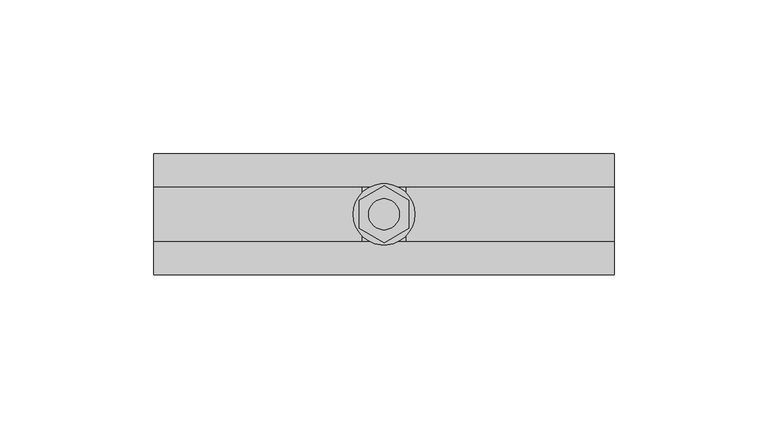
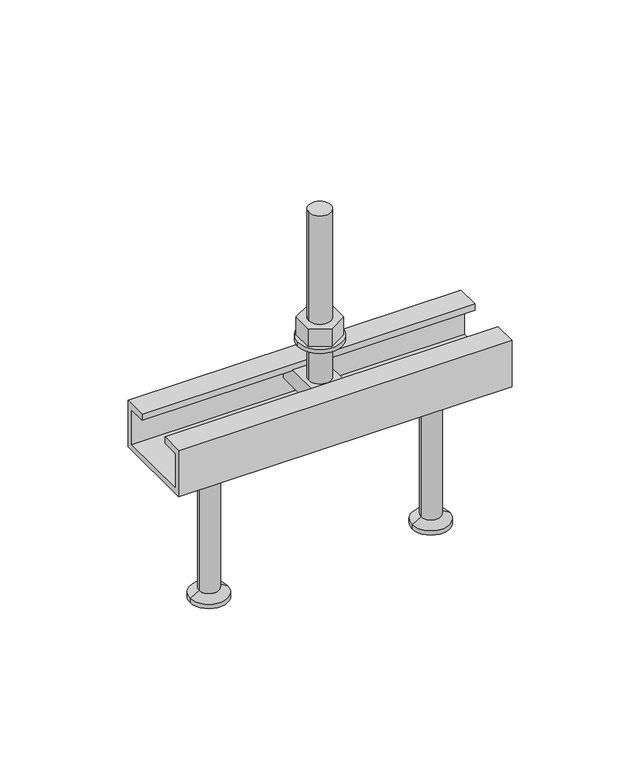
"""IFC4 building model written with IfcOpenShell, lengths in millimetres: fastener geometry, JTA-W JORDAHL® AnchorChannels : JTA-W L=150 mm."""

from ifc_helpers import new_model, si_unit, point, frame, frame_2d, origin, place, context, project, spatial, polyline, circle_curve, trimmed, segment, composite_curve, outline, extrude, source, transform, mapped, element, save
from ifc_brep_helpers import plane_surface, cylinder_surface, revolved_surface, advanced_brep


def fastener_856946d6(model_context):
    return source(origin(), model_context, "Body", "SolidModel", [
        extrude(outline(polyline([(75.0, 9.2376043), (83.0, 4.6188022), (83.0, -4.6188022), (75.0, -9.2376043), (67.0, -4.6188022), (67.0, 4.6188022), (75.0, 9.2376043)]), holes=[composite_curve([segment(trimmed(circle_curve(frame_2d((75.0, 0.0)), 5.0), [point((70.0, 0.0))], [point((80.0, 0.0))], True, "CARTESIAN"), True, "CONTINUOUS"), segment(trimmed(circle_curve(frame_2d((75.0, 0.0)), 5.0), [point((80.0, 0.0))], [point((70.0, 0.0))], True, "CARTESIAN"), True, "CONTINUOUS")], self_intersect=False)]), frame((0.0, 0.0, 17.0), z_axis=(0.0, 0.0, 1.0), x_axis=(1.0, 0.0, 0.0)), (0.0, 0.0, 1.0), 8.4),
        extrude(outline(composite_curve([segment(trimmed(circle_curve(frame_2d((75.0, 0.0)), 10.0), [point((65.0, 0.0))], [point((85.0, 0.0))], False, "CARTESIAN"), True, "CONTINUOUS"), segment(trimmed(circle_curve(frame_2d((75.0, 0.0)), 10.0), [point((85.0, 0.0))], [point((65.0, 0.0))], False, "CARTESIAN"), True, "CONTINUOUS")], self_intersect=False), holes=[composite_curve([segment(trimmed(circle_curve(frame_2d((75.0, 0.0)), 5.25), [point((69.75, 0.0))], [point((80.25, 0.0))], True, "CARTESIAN"), True, "CONTINUOUS"), segment(trimmed(circle_curve(frame_2d((75.0, 0.0)), 5.25), [point((80.25, 0.0))], [point((69.75, 0.0))], True, "CARTESIAN"), True, "CONTINUOUS")], self_intersect=False)]), frame((0.0, 0.0, 15.0), z_axis=(0.0, 0.0, 1.0), x_axis=(1.0, 0.0, 0.0)), (0.0, 0.0, 1.0), 2.0),
        advanced_brep(
        [(82.0, 16.25, -3.0), (82.0, -16.25, -3.0), (82.0, -16.25, -11.0), (82.0, 16.25, -11.0), (68.0, 16.25, -3.0), (68.0, 16.25, -11.0), (68.0, -16.25, -11.0), (68.0, -16.25, -3.0), (80.0, 0.0, -3.0), (70.0, 0.0, -3.0), (70.0, 0.0, 77.0), (80.0, 0.0, 77.0)],
        [
            (0, 1),
            (1, 2),
            (2, 3),
            (3, 0),
            (4, 5),
            (5, 6),
            (6, 7),
            (7, 4),
            (0, 4),
            (7, 1),
            (8, 9, circle_curve(frame((75.0, 0.0, -3.0), z_axis=(0.0, 0.0, -1.0), x_axis=(1.0, 0.0, 0.0)), 5.0)),
            (9, 8, circle_curve(frame((75.0, 0.0, -3.0), z_axis=(0.0, 0.0, -1.0), x_axis=(1.0, 0.0, 0.0)), 5.0)),
            (6, 2),
            (5, 3),
            (10, 11, circle_curve(frame((75.0, 0.0, 77.0), z_axis=(0.0, 0.0, 1.0), x_axis=(1.0, 0.0, 0.0)), 5.0)),
            (11, 10, circle_curve(frame((75.0, 0.0, 77.0), z_axis=(0.0, 0.0, 1.0), x_axis=(1.0, 0.0, 0.0)), 5.0)),
            (10, 9),
            (8, 11),
        ],
        [
            plane_surface(frame((82.0, -16.25, -3.0), z_axis=(1.0, 0.0, 0.0), x_axis=(0.0, -1.0, 0.0))),
            plane_surface(frame((68.0, -16.25, -3.0), z_axis=(-1.0, 0.0, 0.0), x_axis=(0.0, 1.0, 0.0))),
            plane_surface(frame((82.0, 16.25, -3.0), z_axis=(0.0, 0.0, 1.0), x_axis=(-1.0, 0.0, 0.0))),
            plane_surface(frame((82.0, -16.25, -3.0), z_axis=(0.0, -1.0, 0.0), x_axis=(-1.0, 0.0, 0.0))),
            plane_surface(frame((82.0, -16.25, -11.0), z_axis=(0.0, 0.0, -1.0), x_axis=(-1.0, 0.0, 0.0))),
            plane_surface(frame((82.0, 16.25, -11.0), z_axis=(0.0, 1.0, 0.0), x_axis=(-1.0, 0.0, 0.0))),
            plane_surface(frame((80.0, 0.0, 77.0), z_axis=(0.0, 0.0, 1.0), x_axis=(0.0, 1.0, 0.0))),
            cylinder_surface(frame((75.0, 0.0, -3.0), z_axis=(0.0, 0.0, 1.0), x_axis=(1.0, 0.0, 0.0)), 5.0),
        ],
        [
            (0, [[1, 2, 3, 4]]),
            (1, [[5, 6, 7, 8]]),
            (2, [[-1, 9, -8, 10], [11, 12]]),
            (3, [[-2, -10, -7, 13]]),
            (4, [[-3, -13, -6, 14]]),
            (5, [[-4, -14, -5, -9]]),
            (6, [[15, 16]]),
            (7, [[-15, 17, -11, 18]]),
            (7, [[-16, -18, -12, -17]]),
        ],
    ),
        advanced_brep(
        [(125.0, 0.0, -22.0), (138.5, 0.0, -22.0), (111.5, 0.0, -22.0), (116.5, 0.0, -90.0), (133.5, 0.0, -90.0), (125.0, 0.0, -90.0), (116.5, 0.0, -88.0), (133.5, 0.0, -88.0), (120.5, 0.0, -85.6905989), (129.5, 0.0, -85.6905989), (120.5, 0.0, -24.5), (129.5, 0.0, -24.5)],
        [
            (0, 1),
            (1, 2, circle_curve(frame((125.0, 0.0, -22.0), z_axis=(0.0, 0.0, 1.0), x_axis=(1.0, 0.0, 0.0)), 13.5)),
            (2, 0),
            (2, 1, circle_curve(frame((125.0, 0.0, -22.0), z_axis=(0.0, 0.0, 1.0), x_axis=(1.0, 0.0, 0.0)), 13.5)),
            (3, 4, circle_curve(frame((125.0, 0.0, -90.0), z_axis=(0.0, 0.0, -1.0), x_axis=(1.0, 0.0, 0.0)), 8.5)),
            (4, 5),
            (5, 3),
            (4, 3, circle_curve(frame((125.0, 0.0, -90.0), z_axis=(0.0, 0.0, -1.0), x_axis=(1.0, 0.0, 0.0)), 8.5)),
            (6, 7, circle_curve(frame((125.0, 0.0, -88.0), z_axis=(0.0, 0.0, -1.0), x_axis=(1.0, 0.0, 0.0)), 8.5)),
            (7, 4),
            (3, 6),
            (7, 6, circle_curve(frame((125.0, 0.0, -88.0), z_axis=(0.0, 0.0, -1.0), x_axis=(1.0, 0.0, 0.0)), 8.5)),
            (8, 9, circle_curve(frame((125.0, 0.0, -85.6905989), z_axis=(0.0, 0.0, -1.0), x_axis=(1.0, 0.0, 0.0)), 4.5)),
            (9, 7),
            (6, 8),
            (9, 8, circle_curve(frame((125.0, 0.0, -85.6905989), z_axis=(0.0, 0.0, -1.0), x_axis=(1.0, 0.0, 0.0)), 4.5)),
            (10, 11, circle_curve(frame((125.0, 0.0, -24.5), z_axis=(0.0, 0.0, -1.0), x_axis=(1.0, 0.0, 0.0)), 4.5)),
            (11, 9),
            (8, 10),
            (11, 10, circle_curve(frame((125.0, 0.0, -24.5), z_axis=(0.0, 0.0, -1.0), x_axis=(1.0, 0.0, 0.0)), 4.5)),
            (1, 11),
            (10, 2),
        ],
        [
            plane_surface(frame((125.0, 0.0, -22.0), z_axis=(0.0, 0.0, 1.0), x_axis=(1.0, 0.0, 0.0))),
            plane_surface(frame((125.0, 0.0, -90.0), z_axis=(0.0, 0.0, -1.0), x_axis=(1.0, 0.0, 0.0))),
            cylinder_surface(frame((125.0, 0.0, 2282.3150031), z_axis=(0.0, 0.0, 1.0), x_axis=(1.0, 0.0, 0.0)), 8.5),
            revolved_surface(polyline([(133.5, 0.0, -88.0), (129.5, 0.0, -85.6905989)]), (125.0, 0.0, 2282.3150031), (0.0, 0.0, 1.0)),
            cylinder_surface(frame((125.0, 0.0, 2282.3150031), z_axis=(0.0, 0.0, 1.0), x_axis=(1.0, 0.0, 0.0)), 4.5),
            revolved_surface(polyline([(129.5, 0.0, -24.5), (138.5, 0.0, -22.0)]), (125.0, 0.0, 2282.3150031), (0.0, 0.0, 1.0)),
        ],
        [
            (0, [[1, 2, 3]]),
            (0, [[-3, 4, -1]]),
            (1, [[5, 6, 7]]),
            (1, [[8, -7, -6]]),
            (2, [[9, 10, -5, 11]]),
            (2, [[12, -11, -8, -10]]),
            (3, [[13, 14, -9, 15]]),
            (3, [[16, -15, -12, -14]]),
            (4, [[17, 18, -13, 19]]),
            (4, [[20, -19, -16, -18]]),
            (5, [[-2, 21, -17, 22]]),
            (5, [[-4, -22, -20, -21]]),
        ],
    ),
        advanced_brep(
        [(25.0, 0.0, -22.0), (38.5, 0.0, -22.0), (11.5, 0.0, -22.0), (16.5, 0.0, -90.0), (33.5, 0.0, -90.0), (25.0, 0.0, -90.0), (16.5, 0.0, -88.0), (33.5, 0.0, -88.0), (20.5, 0.0, -85.6905989), (29.5, 0.0, -85.6905989), (20.5, 0.0, -24.5), (29.5, 0.0, -24.5)],
        [
            (0, 1),
            (1, 2, circle_curve(frame((25.0, 0.0, -22.0), z_axis=(0.0, 0.0, 1.0), x_axis=(1.0, 0.0, 0.0)), 13.5)),
            (2, 0),
            (2, 1, circle_curve(frame((25.0, 0.0, -22.0), z_axis=(0.0, 0.0, 1.0), x_axis=(1.0, 0.0, 0.0)), 13.5)),
            (3, 4, circle_curve(frame((25.0, 0.0, -90.0), z_axis=(0.0, 0.0, -1.0), x_axis=(1.0, 0.0, 0.0)), 8.5)),
            (4, 5),
            (5, 3),
            (4, 3, circle_curve(frame((25.0, 0.0, -90.0), z_axis=(0.0, 0.0, -1.0), x_axis=(1.0, 0.0, 0.0)), 8.5)),
            (6, 7, circle_curve(frame((25.0, 0.0, -88.0), z_axis=(0.0, 0.0, -1.0), x_axis=(1.0, 0.0, 0.0)), 8.5)),
            (7, 4),
            (3, 6),
            (7, 6, circle_curve(frame((25.0, 0.0, -88.0), z_axis=(0.0, 0.0, -1.0), x_axis=(1.0, 0.0, 0.0)), 8.5)),
            (8, 9, circle_curve(frame((25.0, 0.0, -85.6905989), z_axis=(0.0, 0.0, -1.0), x_axis=(1.0, 0.0, 0.0)), 4.5)),
            (9, 7),
            (6, 8),
            (9, 8, circle_curve(frame((25.0, 0.0, -85.6905989), z_axis=(0.0, 0.0, -1.0), x_axis=(1.0, 0.0, 0.0)), 4.5)),
            (10, 11, circle_curve(frame((25.0, 0.0, -24.5), z_axis=(0.0, 0.0, -1.0), x_axis=(1.0, 0.0, 0.0)), 4.5)),
            (11, 9),
            (8, 10),
            (11, 10, circle_curve(frame((25.0, 0.0, -24.5), z_axis=(0.0, 0.0, -1.0), x_axis=(1.0, 0.0, 0.0)), 4.5)),
            (1, 11),
            (10, 2),
        ],
        [
            plane_surface(frame((25.0, 0.0, -22.0), z_axis=(0.0, 0.0, 1.0), x_axis=(1.0, 0.0, 0.0))),
            plane_surface(frame((25.0, 0.0, -90.0), z_axis=(0.0, 0.0, -1.0), x_axis=(1.0, 0.0, 0.0))),
            cylinder_surface(frame((25.0, 0.0, 2282.3150031), z_axis=(0.0, 0.0, 1.0), x_axis=(1.0, 0.0, 0.0)), 8.5),
            revolved_surface(polyline([(33.5, 0.0, -88.0), (29.5, 0.0, -85.6905989)]), (25.0, 0.0, 2282.3150031), (0.0, 0.0, 1.0)),
            cylinder_surface(frame((25.0, 0.0, 2282.3150031), z_axis=(0.0, 0.0, 1.0), x_axis=(1.0, 0.0, 0.0)), 4.5),
            revolved_surface(polyline([(29.5, 0.0, -24.5), (38.5, 0.0, -22.0)]), (25.0, 0.0, 2282.3150031), (0.0, 0.0, 1.0)),
        ],
        [
            (0, [[1, 2, 3]]),
            (0, [[-3, 4, -1]]),
            (1, [[5, 6, 7]]),
            (1, [[8, -7, -6]]),
            (2, [[9, 10, -5, 11]]),
            (2, [[12, -11, -8, -10]]),
            (3, [[13, 14, -9, 15]]),
            (3, [[16, -15, -12, -14]]),
            (4, [[17, 18, -13, 19]]),
            (4, [[20, -19, -16, -18]]),
            (5, [[-2, 21, -17, 22]]),
            (5, [[-4, -22, -20, -21]]),
        ],
    ),
        extrude(outline(polyline([(19.75, 0.0), (19.75, -22.0), (-19.75, -22.0), (-19.75, 0.0), (-9.0, 0.0), (-9.0, -3.0), (-17.25, -3.0), (-17.25, -19.5), (17.25, -19.5), (17.25, -3.0), (9.0, -3.0), (9.0, 0.0), (19.75, 0.0)])), frame((0.0, 0.0, 0.0), z_axis=(1.0, 0.0, 0.0), x_axis=(0.0, 1.0, 0.0)), (0.0, 0.0, 1.0), 150.0),
    ])


if __name__ == "__main__":
    model = new_model("IFC4")
    model_context = context("Model", 3, world=origin())
    ifc_project = project(units=[si_unit("LENGTHUNIT", "METRE", prefix="MILLI")], contexts=[model_context])
    site = spatial("IfcSite", under=ifc_project)
    building = spatial("IfcBuilding", under=site)
    placement = place(None, origin())
    fastener_shape = fastener_856946d6(model_context)
    element("IfcFastener", 1, ObjectType="JTA-W JORDAHL® AnchorChannels : JTA-W L=150 mm", at=placement, inside=building, context=model_context, shape_type="MappedRepresentation", body=[
        mapped(fastener_shape, transform((0.0, 0.0, 0.0), x_axis=(1.0, 0.0, 0.0), y_axis=(0.0, 1.0, 0.0), z_axis=(0.0, 0.0, 1.0))),
    ])
    save(model, "model.ifc")
